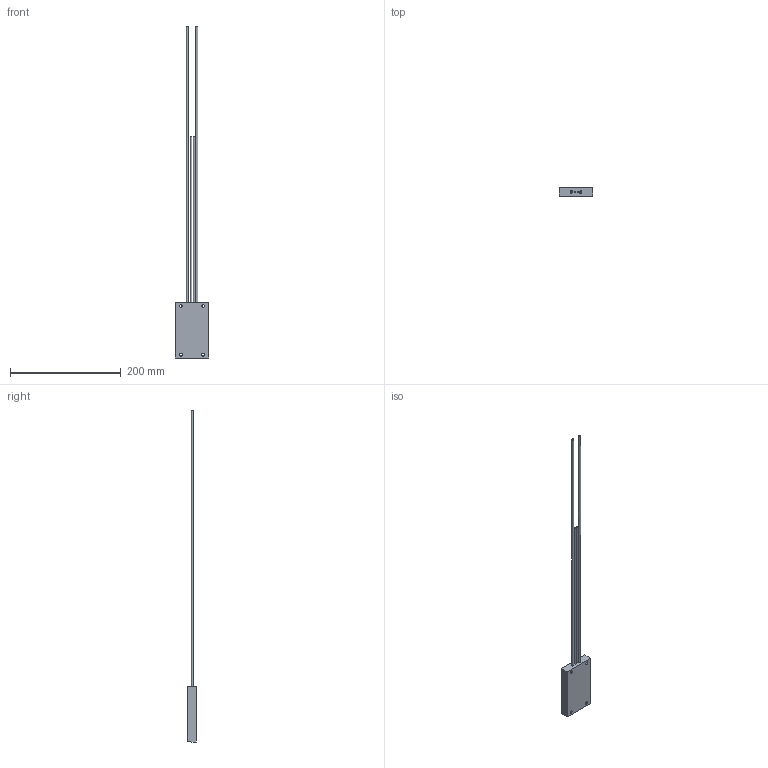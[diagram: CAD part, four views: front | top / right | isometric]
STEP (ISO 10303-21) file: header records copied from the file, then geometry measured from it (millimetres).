
FILE_DESCRIPTION(/* description */ (''),/* implementation_level */ '2;1');
FILE_NAME(/* name */ 'C:\_Vault\Dati\CATALOGO\RFD\RFDT100.stp',/* time_stamp */ '2014-03-24T17:03:20+01:00',/* author */ ('stefano'),/* organization */ (''),/* preprocessor_version */ 'ST-DEVELOPER v15.2',/* originating_system */ 'Autodesk Inventor 2014',/* authorisation */ '');
FILE_SCHEMA (('AUTOMOTIVE_DESIGN { 1 0 10303 214 3 1 1 }'));
Length unit declared in the file: millimetre
Products named in the file (1): RFDT100
Bounding box: 60 x 15 x 600.1 mm (x, y, z)
Volume: 104334.5 mm3; surface area: 34866.4 mm2
Topology: 1 solids, 1 shells, 26 faces, 52 edges, 36 vertices
Faces by surface type: plane 14, cylinder 12
Full cylindrical faces by diameter (mm): 1.5 x2, 2 x2, 2.5 x2, 4 x2, 5 x4
Entity records: 708 total; most frequent: DIRECTION 114, CARTESIAN_POINT 95, ORIENTED_EDGE 72, EDGE_LOOP 54, AXIS2_PLACEMENT_3D 51, EDGE_CURVE 36, FACE_BOUND 35, VERTEX_POINT 32
